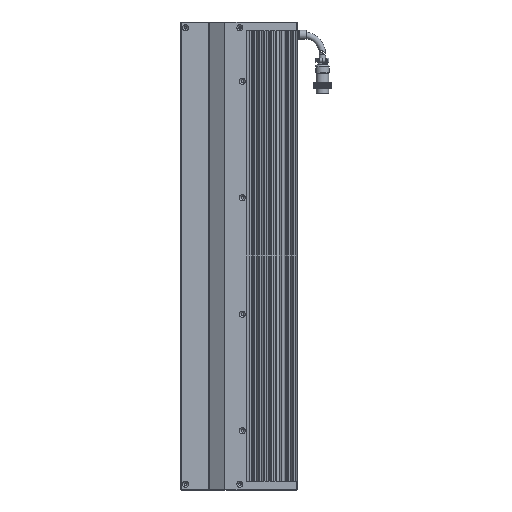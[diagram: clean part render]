
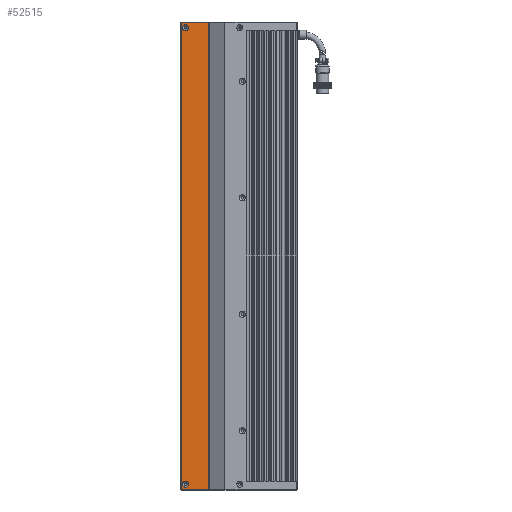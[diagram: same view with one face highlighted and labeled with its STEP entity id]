
A CAD part, left-side view. The second image highlights one B-rep face of the part: STEP entity #52515.
In plain terms, the highlighted planar face has unit normal (-1, 0, 0).
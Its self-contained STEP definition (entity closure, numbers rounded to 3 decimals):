
#4659 = ORIENTED_EDGE ( 'NONE', *, *, #111480, .F. ) ;
#5801 = CARTESIAN_POINT ( 'NONE',  ( -15.462, -7.561, 120. ) ) ;
#10436 = CARTESIAN_POINT ( 'NONE',  ( -15.462, 13.789, 595.5 ) ) ;
#11915 = EDGE_CURVE ( 'NONE', #66240, #32119, #91127, .T. ) ;
#14413 = VERTEX_POINT ( 'NONE', #51302 ) ;
#15555 = CARTESIAN_POINT ( 'NONE',  ( -15.462, 21.439, 601. ) ) ;
#16227 = EDGE_LOOP ( 'NONE', ( #63387 ) ) ;
#16369 = FACE_BOUND ( 'NONE', #91445, .T. ) ;
#17415 = AXIS2_PLACEMENT_3D ( 'NONE', #126014, #57522, #116236 ) ;
#19220 = EDGE_CURVE ( 'NONE', #32119, #112085, #20320, .T. ) ;
#20320 = LINE ( 'NONE', #66733, #122340 ) ;
#25772 = DIRECTION ( 'NONE',  ( 0., 1., 0. ) ) ;
#28673 = PLANE ( 'NONE',  #75850 ) ;
#32119 = VERTEX_POINT ( 'NONE', #110094 ) ;
#34116 = CIRCLE ( 'NONE', #17415, 3.15 ) ;
#35453 = LINE ( 'NONE', #68211, #84279 ) ;
#38426 = DIRECTION ( 'NONE',  ( 0., 0., -1. ) ) ;
#39192 = DIRECTION ( 'NONE',  ( 0., 0., -1. ) ) ;
#39955 = VECTOR ( 'NONE', #73952, 1000. ) ;
#42481 = CARTESIAN_POINT ( 'NONE',  ( -15.462, 16.939, 595.5 ) ) ;
#44830 = ORIENTED_EDGE ( 'NONE', *, *, #19220, .F. ) ;
#46011 = AXIS2_PLACEMENT_3D ( 'NONE', #42481, #102052, #110594 ) ;
#51302 = CARTESIAN_POINT ( 'NONE',  ( -15.462, -6.987, 601. ) ) ;
#52515 = ADVANCED_FACE ( 'NONE', ( #109291, #16369, #118425 ), #28673, .F. ) ;
#55235 = CIRCLE ( 'NONE', #46011, 3.15 ) ;
#57522 = DIRECTION ( 'NONE',  ( -1., 0., 0. ) ) ;
#58699 = EDGE_CURVE ( 'NONE', #61375, #61375, #34116, .T. ) ;
#60261 = EDGE_LOOP ( 'NONE', ( #44830, #98727, #4659, #66297 ) ) ;
#61375 = VERTEX_POINT ( 'NONE', #69227 ) ;
#63387 = ORIENTED_EDGE ( 'NONE', *, *, #58699, .F. ) ;
#66240 = VERTEX_POINT ( 'NONE', #86964 ) ;
#66297 = ORIENTED_EDGE ( 'NONE', *, *, #111334, .F. ) ;
#66733 = CARTESIAN_POINT ( 'NONE',  ( -15.462, 21.439, 599.5 ) ) ;
#67450 = CARTESIAN_POINT ( 'NONE',  ( -15.462, -7.561, 599.5 ) ) ;
#68211 = CARTESIAN_POINT ( 'NONE',  ( -15.462, -6.987, 599.5 ) ) ;
#69227 = CARTESIAN_POINT ( 'NONE',  ( -15.462, 16.939, 128.65 ) ) ;
#73952 = DIRECTION ( 'NONE',  ( 0., -1., 0. ) ) ;
#75075 = LINE ( 'NONE', #102439, #39955 ) ;
#75211 = EDGE_CURVE ( 'NONE', #100940, #100940, #55235, .T. ) ;
#75850 = AXIS2_PLACEMENT_3D ( 'NONE', #67450, #96825, #38426 ) ;
#77457 = VECTOR ( 'NONE', #25772, 1000. ) ;
#84279 = VECTOR ( 'NONE', #39192, 1000. ) ;
#86964 = CARTESIAN_POINT ( 'NONE',  ( -15.462, -6.987, 120. ) ) ;
#91127 = LINE ( 'NONE', #5801, #77457 ) ;
#91445 = EDGE_LOOP ( 'NONE', ( #100510 ) ) ;
#95248 = DIRECTION ( 'NONE',  ( 0., 0., 1. ) ) ;
#96825 = DIRECTION ( 'NONE',  ( 1., 0., 0. ) ) ;
#98727 = ORIENTED_EDGE ( 'NONE', *, *, #11915, .F. ) ;
#100510 = ORIENTED_EDGE ( 'NONE', *, *, #75211, .F. ) ;
#100940 = VERTEX_POINT ( 'NONE', #10436 ) ;
#102052 = DIRECTION ( 'NONE',  ( -1., 0., 0. ) ) ;
#102439 = CARTESIAN_POINT ( 'NONE',  ( -15.462, -7.561, 601. ) ) ;
#109291 = FACE_BOUND ( 'NONE', #16227, .T. ) ;
#110094 = CARTESIAN_POINT ( 'NONE',  ( -15.462, 21.439, 120. ) ) ;
#110594 = DIRECTION ( 'NONE',  ( 0., -1., 0. ) ) ;
#111334 = EDGE_CURVE ( 'NONE', #112085, #14413, #75075, .T. ) ;
#111480 = EDGE_CURVE ( 'NONE', #14413, #66240, #35453, .T. ) ;
#112085 = VERTEX_POINT ( 'NONE', #15555 ) ;
#116236 = DIRECTION ( 'NONE',  ( 0., 0., 1. ) ) ;
#118425 = FACE_OUTER_BOUND ( 'NONE', #60261, .T. ) ;
#122340 = VECTOR ( 'NONE', #95248, 1000. ) ;
#126014 = CARTESIAN_POINT ( 'NONE',  ( -15.462, 16.939, 125.5 ) ) ;
